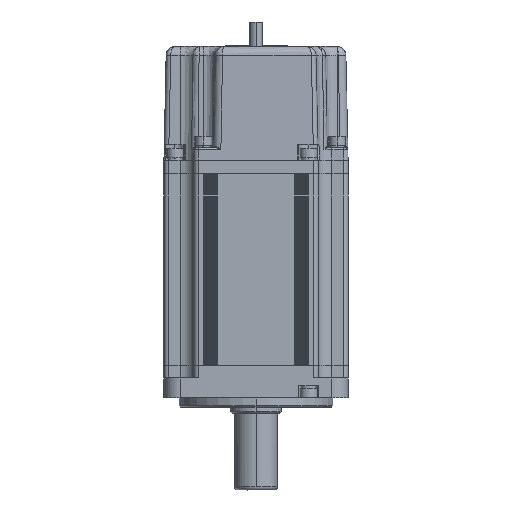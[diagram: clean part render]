
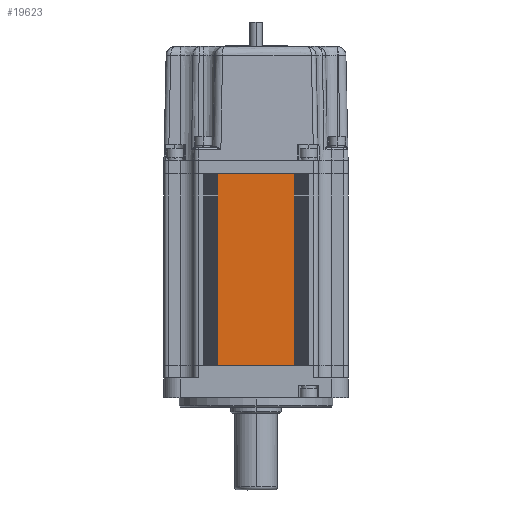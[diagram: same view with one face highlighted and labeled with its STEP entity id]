
A CAD part, left-side view. The second image highlights one B-rep face of the part: STEP entity #19623.
In plain terms, the highlighted planar face has unit normal (-1, 0, 0) as drawn and (1, 0, 0) by its records, which use the part's own axes.
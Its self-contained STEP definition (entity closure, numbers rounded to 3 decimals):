
#13010=DIRECTION('',(0.,1.,0.));
#13011=VECTOR('',#13010,25.);
#13012=CARTESIAN_POINT('',(30.,-12.5,0.));
#13013=LINE('',#13012,#13011);
#14316=DIRECTION('',(0.,1.,0.));
#14317=VECTOR('',#14316,25.);
#14318=CARTESIAN_POINT('',(30.,-12.5,62.5));
#14319=LINE('',#14318,#14317);
#15362=DIRECTION('',(0.,0.,1.));
#15363=VECTOR('',#15362,62.5);
#15364=CARTESIAN_POINT('',(30.,12.5,0.));
#15365=LINE('',#15364,#15363);
#15366=DIRECTION('',(0.,0.,1.));
#15367=VECTOR('',#15366,62.5);
#15368=CARTESIAN_POINT('',(30.,-12.5,0.));
#15369=LINE('',#15368,#15367);
#16522=CARTESIAN_POINT('',(30.,-12.5,0.));
#16524=VERTEX_POINT('',#16522);
#16586=CARTESIAN_POINT('',(30.,-12.5,62.5));
#16588=VERTEX_POINT('',#16586);
#16878=CARTESIAN_POINT('',(30.,12.5,0.));
#16879=VERTEX_POINT('',#16878);
#16910=CARTESIAN_POINT('',(30.,12.5,62.5));
#16911=VERTEX_POINT('',#16910);
#19610=CARTESIAN_POINT('',(30.,-30.,0.));
#19611=DIRECTION('',(1.,0.,0.));
#19612=DIRECTION('',(0.,1.,0.));
#19613=AXIS2_PLACEMENT_3D('',#19610,#19611,#19612);
#19614=PLANE('',#19613);
#19616=ORIENTED_EDGE('',*,*,#19615,.F.);
#19617=ORIENTED_EDGE('',*,*,#17245,.F.);
#19619=ORIENTED_EDGE('',*,*,#19618,.T.);
#19620=ORIENTED_EDGE('',*,*,#18333,.T.);
#19621=EDGE_LOOP('',(#19616,#19617,#19619,#19620));
#19622=FACE_OUTER_BOUND('',#19621,.F.);
#17245=EDGE_CURVE('',#16524,#16879,#13013,.T.);
#18333=EDGE_CURVE('',#16588,#16911,#14319,.T.);
#19615=EDGE_CURVE('',#16879,#16911,#15365,.T.);
#19618=EDGE_CURVE('',#16524,#16588,#15369,.T.);
#19623=ADVANCED_FACE('',(#19622),#19614,.T.);
